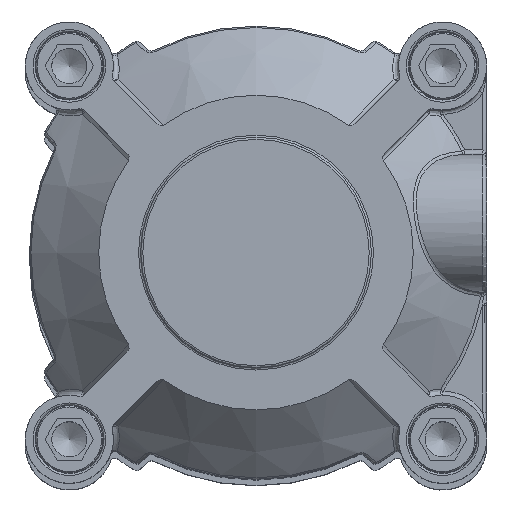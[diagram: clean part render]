
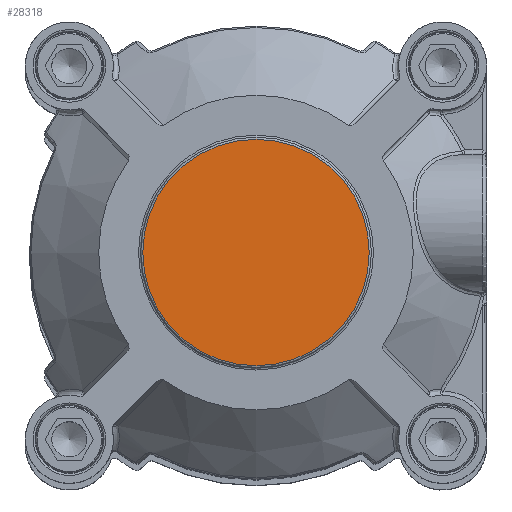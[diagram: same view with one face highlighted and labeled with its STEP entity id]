
A CAD part, top view. The second image highlights one B-rep face of the part: STEP entity #28318.
In plain terms, the highlighted planar face has unit normal (0, 0, 1).
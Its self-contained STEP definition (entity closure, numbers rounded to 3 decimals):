
#1598=PLANE('',#30268);
#8281=ORIENTED_EDGE('',*,*,#12262,.F.);
#8282=ORIENTED_EDGE('',*,*,#12263,.F.);
#12262=EDGE_CURVE('',#14539,#14540,#15812,.T.);
#12263=EDGE_CURVE('',#14540,#14539,#15813,.T.);
#14539=VERTEX_POINT('',#46516);
#14540=VERTEX_POINT('',#46517);
#15812=CIRCLE('',#30269,27.);
#15813=CIRCLE('',#30270,27.);
#17219=EDGE_LOOP('',(#8281,#8282));
#18673=FACE_BOUND('',#17219,.T.);
#28318=ADVANCED_FACE('',(#18673),#1598,.F.);
#30268=AXIS2_PLACEMENT_3D('',#46514,#34793,#34794);
#30269=AXIS2_PLACEMENT_3D('',#46515,#34795,#34796);
#30270=AXIS2_PLACEMENT_3D('',#46518,#34797,#34798);
#34793=DIRECTION('',(0.,0.,-1.));
#34794=DIRECTION('',(0.,1.,0.));
#34795=DIRECTION('',(0.,0.,-1.));
#34796=DIRECTION('',(1.,0.,0.));
#34797=DIRECTION('',(0.,0.,-1.));
#34798=DIRECTION('',(1.,0.,0.));
#46514=CARTESIAN_POINT('',(0.,-68.,52.5));
#46515=CARTESIAN_POINT('',(0.,0.,52.5));
#46516=CARTESIAN_POINT('',(-27.,0.,52.5));
#46517=CARTESIAN_POINT('',(27.,0.,52.5));
#46518=CARTESIAN_POINT('',(0.,0.,52.5));
